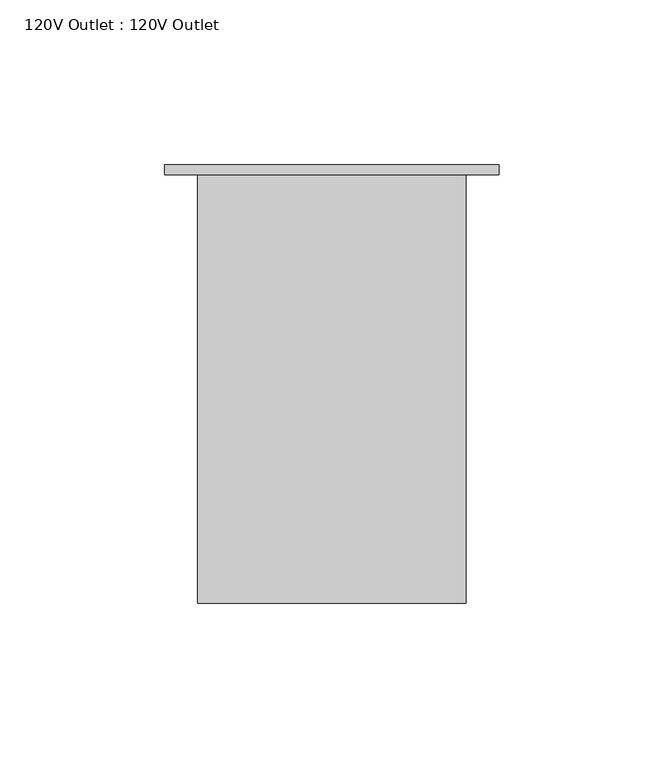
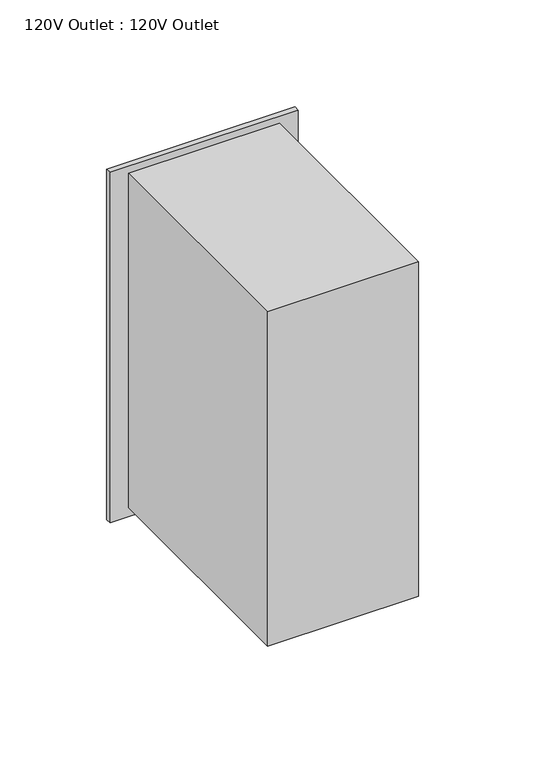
"""IFC4 building model written with IfcOpenShell, lengths in millimetres: proxy geometry, 120V Outlet : 120V Outlet."""

from ifc_helpers import new_model, si_unit, point, frame, frame_2d, origin, place, context, project, spatial, polyline, circle_curve, trimmed, segment, composite_curve, outline, extrude, source, transform, mapped, element, save


def proxy_120v_outlet_120v_outlet_7d29b4f8(model_context):
    return source(origin(), model_context, "Body", "SweptSolid", [
        extrude(outline(polyline([(40.8, 43.5), (-40.8, 43.5), (-40.8, 173.6), (40.8, 173.6), (40.8, 43.5)])), frame((0.0, 0.0, 1887.0755609), z_axis=(0.0, 0.0, 1.0), x_axis=(1.0, 0.0, 0.0)), (0.0, 0.0, 1.0), 190.9390479),
        extrude(outline(polyline([(2082.0755609, -50.8), (1882.0755609, -50.8), (1882.0755609, 50.8), (2082.0755609, 50.8), (2082.0755609, -50.8)]), holes=[polyline([(2036.2177863, 19.9845665), (2036.2177863, 24.9845665), (2016.2177863, 24.9845665), (2016.2177863, 19.9845665), (2036.2177863, 19.9845665)]), polyline([(2036.2177863, -22.7879151), (2036.2177863, -17.6387853), (2016.2177863, -17.6387853), (2016.2177863, -22.7879151), (2036.2177863, -22.7879151)]), composite_curve([segment(trimmed(circle_curve(frame_2d((2059.9609957, 0.0)), 6.8655063), [point((2059.9609957, 6.8655063))], [point((2059.9609957, -6.8655063))], True, "CARTESIAN"), True, "CONTINUOUS"), segment(trimmed(circle_curve(frame_2d((2059.9609957, 0.0)), 6.8655063), [point((2059.9609957, -6.8655063))], [point((2059.9609957, 6.8655063))], True, "CARTESIAN"), True, "CONTINUOUS")], self_intersect=False), polyline([(1936.2177863, 19.9845665), (1936.2177863, 24.9845665), (1916.2177863, 24.9845665), (1916.2177863, 19.9845665), (1936.2177863, 19.9845665)]), polyline([(1936.2177863, -22.7879151), (1936.2177863, -17.6387853), (1916.2177863, -17.6387853), (1916.2177863, -22.7879151), (1936.2177863, -22.7879151)]), composite_curve([segment(trimmed(circle_curve(frame_2d((1959.9609957, 0.0)), 6.8655063), [point((1959.9609957, 6.8655063))], [point((1959.9609957, -6.8655063))], True, "CARTESIAN"), True, "CONTINUOUS"), segment(trimmed(circle_curve(frame_2d((1959.9609957, 0.0)), 6.8655063), [point((1959.9609957, -6.8655063))], [point((1959.9609957, 6.8655063))], True, "CARTESIAN"), True, "CONTINUOUS")], self_intersect=False)]), frame((0.0, 173.6, 0.0), z_axis=(0.0, 1.0, 0.0), x_axis=(0.0, 0.0, 1.0)), (0.0, 0.0, 1.0), 3.0),
    ])


if __name__ == "__main__":
    model = new_model("IFC4")
    model_context = context("Model", 3, world=origin())
    ifc_project = project(units=[si_unit("LENGTHUNIT", "METRE", prefix="MILLI")], contexts=[model_context])
    site = spatial("IfcSite", under=ifc_project)
    building = spatial("IfcBuilding", under=site)
    placement = place(None, origin())
    proxy_120v_outlet_120v_outlet_shape = proxy_120v_outlet_120v_outlet_7d29b4f8(model_context)
    element("IfcBuildingElementProxy", 1, Name="120V Outlet : 120V Outlet", ObjectType="120V Outlet : 120V Outlet", at=placement, inside=building, context=model_context, shape_type="MappedRepresentation", body=[
        mapped(proxy_120v_outlet_120v_outlet_shape, transform((0.0, 0.0, 0.0), x_axis=(1.0, 0.0, 0.0), y_axis=(0.0, 1.0, 0.0), z_axis=(0.0, 0.0, 1.0))),
    ])
    save(model, "model.ifc")
